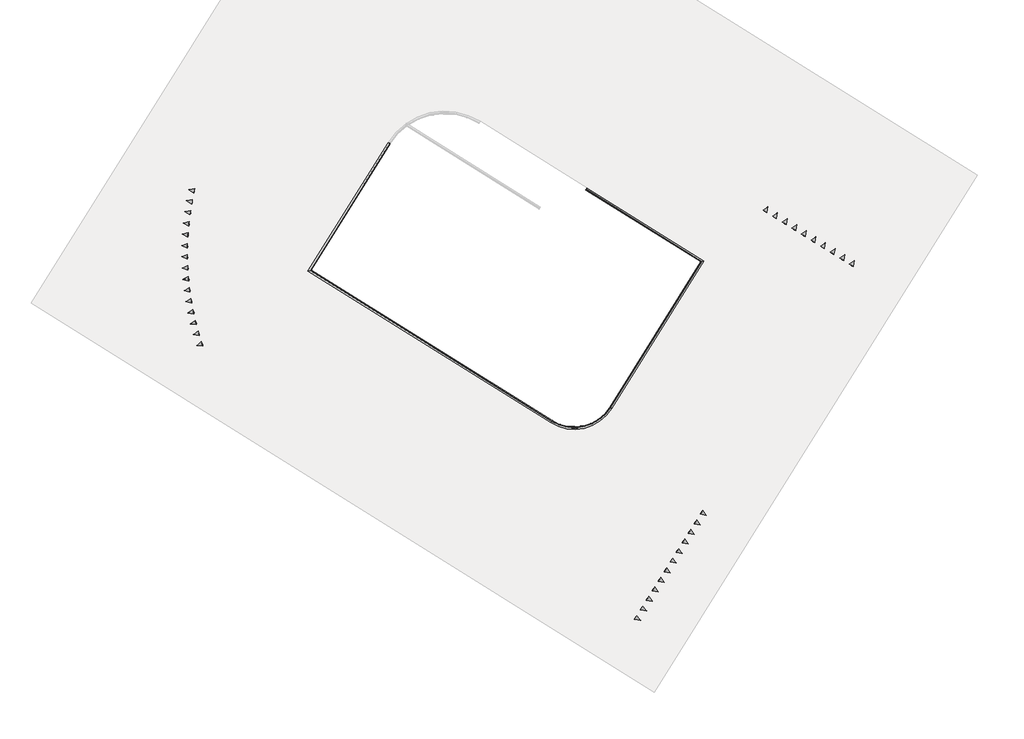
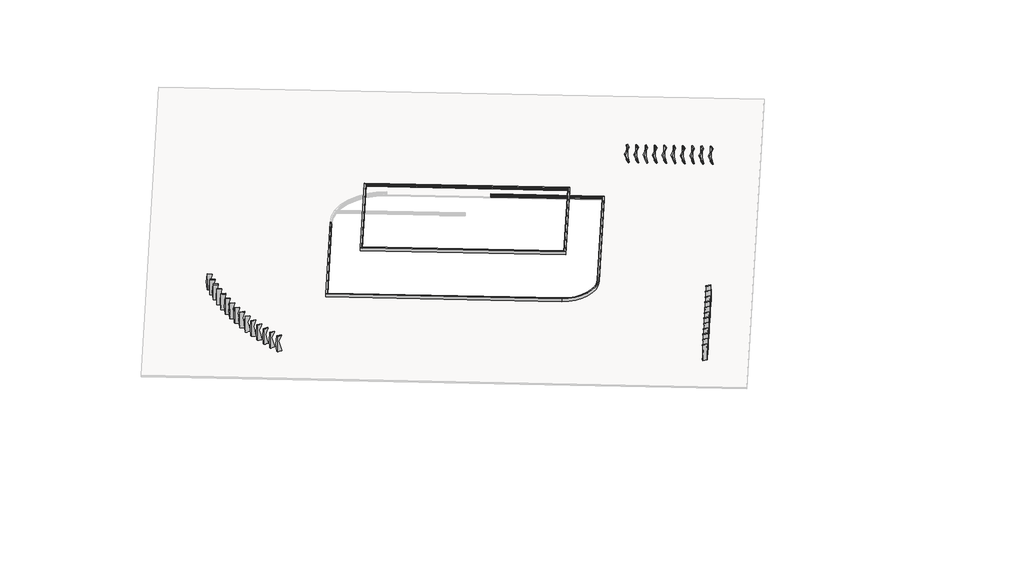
# One storey, part 1 of 2: 37 plates, 1 proxy.
"""IFC4 building model written with IfcOpenShell, lengths in millimetres."""

from ifc_helpers import new_model, si_unit, point, frame, origin, place, context, project, spatial, polyline, circle_curve, ellipse_curve, trimmed, transform, mapped, element, save
from ifc_brep_helpers import plane_surface, cylinder_surface, revolved_surface, advanced_brep
from components import plate_91021fb5, plate_51c6a2b6

model = new_model("IFC4")

# Units and contexts
model_context = context("Model", 3, world=origin())
ifc_project = project(units=[si_unit("LENGTHUNIT", "METRE", prefix="MILLI")], contexts=[model_context])

# Site, building, storey
site = spatial("IfcSite", under=ifc_project)
building = spatial("IfcBuilding", under=site)
storey = spatial("IfcBuildingStorey", under=building, Name="\u200fمحوطه", Elevation=-300.0)

# Proxy
placement = place(None, origin())
element("IfcBuildingElementProxy", 1, Name="Slab Edge", ObjectType="Slab Edge", at=placement, inside=storey, context=model_context, shape_type="AdvancedBrep", body=[
    advanced_brep(
    [(18993.1194704, -34692.0992688, 3470.5596583), (18711.0017166, -34757.2312843, 3301.3056348), (25100.771805, -24531.4615793, 3301.3056348), (25165.9038205, -24813.579333, 3470.5596583), (18965.546763, -34698.4649299, 3550.2749813), (25159.5381594, -24786.0066256, 3550.2749813), (18952.3488225, -34701.5119145, 3559.8528137), (25156.4911747, -24772.8086852, 3559.8528137), (18903.9171471, -34712.6932478, 3644.7056275), (25145.3098414, -24724.3770097, 3644.7056275), (18903.9171471, -34712.6932478, 3689.2842506), (25145.3098414, -24724.3770097, 3689.2842506), (18711.0017166, -34757.2312843, 3689.2842506), (25100.771805, -24531.4615793, 3689.2842506), (25100.771805, -24531.4615793, 3600.0), (18711.0017166, -34757.2312843, 3600.0), (37336.0570338, -46154.0387761, 3470.5596583), (37401.1890493, -46436.1565299, 3301.3056348), (37342.4226948, -46181.6114835, 3550.2749813), (37345.4696795, -46194.809424, 3559.8528137), (37356.6510128, -46243.2410994, 3644.7056275), (37356.6510128, -46243.2410994, 3689.2842506), (37401.1890493, -46436.1565299, 3689.2842506), (37401.1890493, -46436.1565299, 3600.0), (43508.8413838, -36275.5188404, 3470.5596583), (43790.9591376, -36210.3868249, 3301.3056348), (43536.4140912, -36269.1531793, 3550.2749813), (43549.6120317, -36266.1061946, 3559.8528137), (43598.0437072, -36254.9248613, 3644.7056275), (43598.0437072, -36254.9248613, 3689.2842506), (43790.9591376, -36210.3868249, 3689.2842506), (43790.9591376, -36210.3868249, 3600.0)],
    [
        (0, 1, ellipse_curve(frame((18676.5525326, -34765.1845051, 3540.0), z_axis=(-0.22495105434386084, 0.9743700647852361, 0.0), x_axis=(-0.9743700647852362, -0.2249510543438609, 0.0)), 339.411255, 240.0)),
        (1, 2),
        (2, 3, ellipse_curve(frame((25092.8185842, -24497.0123952, 3540.0), z_axis=(-0.9743700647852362, -0.2249510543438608, 0.0), x_axis=(0.22495105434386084, -0.9743700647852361, 0.0)), 339.411255, 240.0)),
        (3, 0),
        (4, 0, ellipse_curve(frame((18887.5971578, -34716.4610142, 3493.7064388), z_axis=(-0.22495105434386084, 0.9743700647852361, 0.0), x_axis=(-0.9743700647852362, -0.2249510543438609, 0.0)), 113.137085, 80.0)),
        (3, 5, ellipse_curve(frame((25141.542075, -24708.0570204, 3493.7064388), z_axis=(-0.9743700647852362, -0.2249510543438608, 0.0), x_axis=(0.22495105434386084, -0.9743700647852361, 0.0)), 113.137085, 80.0)),
        (5, 4),
        (6, 4),
        (5, 7),
        (7, 6),
        (8, 6, ellipse_curve(frame((19069.2732303, -34674.517788, 3644.7056275), z_axis=(0.22495105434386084, -0.9743700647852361, 0.0), x_axis=(0.9743700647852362, 0.2249510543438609, 0.0)), 169.7056275, 120.0)),
        (7, 9, ellipse_curve(frame((25183.4853013, -24889.733093, 3644.7056275), z_axis=(0.9743700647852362, 0.2249510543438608, 0.0), x_axis=(-0.22495105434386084, 0.9743700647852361, 0.0)), 169.7056275, 120.0)),
        (9, 8),
        (10, 8),
        (9, 11),
        (11, 10),
        (12, 10),
        (11, 13),
        (13, 12),
        (13, 14),
        (14, 2),
        (1, 15),
        (15, 12),
        (0, 16),
        (16, 17, ellipse_curve(frame((37409.1422701, -46470.6057139, 3540.0), z_axis=(-0.9743700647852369, -0.22495105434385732, 0.0), x_axis=(0.22495105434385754, -0.9743700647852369, 0.0)), 339.411255, 240.0)),
        (17, 1),
        (4, 18),
        (18, 16, ellipse_curve(frame((37360.4187792, -46259.5610887, 3493.7064388), z_axis=(-0.9743700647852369, -0.22495105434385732, 0.0), x_axis=(0.22495105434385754, -0.9743700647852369, 0.0)), 113.137085, 80.0)),
        (6, 19),
        (19, 18),
        (8, 20),
        (20, 19, ellipse_curve(frame((37318.475553, -46077.8850162, 3644.7056275), z_axis=(0.9743700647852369, 0.22495105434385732, 0.0), x_axis=(-0.22495105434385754, 0.9743700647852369, 0.0)), 169.7056275, 120.0)),
        (10, 21),
        (21, 20),
        (12, 22),
        (22, 21),
        (17, 23),
        (23, 22),
        (16, 24),
        (24, 25, ellipse_curve(frame((43825.4083216, -36202.4336041, 3540.0), z_axis=(0.22495105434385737, -0.974370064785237, 0.0), x_axis=(0.9743700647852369, 0.22495105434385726, 0.0)), 339.411255, 240.0)),
        (25, 17),
        (18, 26),
        (26, 24, ellipse_curve(frame((43614.3636964, -36251.1570949, 3493.7064388), z_axis=(0.22495105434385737, -0.974370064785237, 0.0), x_axis=(0.9743700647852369, 0.22495105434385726, 0.0)), 113.137085, 80.0)),
        (19, 27),
        (27, 26),
        (20, 28),
        (28, 27, ellipse_curve(frame((43432.6876239, -36293.1003212, 3644.7056275), z_axis=(-0.22495105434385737, 0.974370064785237, 0.0), x_axis=(-0.9743700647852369, -0.22495105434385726, 0.0)), 169.7056275, 120.0)),
        (21, 29),
        (29, 28),
        (22, 30),
        (30, 29),
        (25, 31),
        (31, 30),
        (24, 3),
        (2, 25),
        (26, 5),
        (27, 7),
        (28, 9),
        (29, 11),
        (30, 13),
    ],
    [
        cylinder_surface(frame((18689.8005142, -34743.9833027, 3540.0), z_axis=(-0.5299192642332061, -0.8480480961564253, 0.0), x_axis=(0.8480480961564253, -0.5299192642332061, 0.0)), 240.0),
        cylinder_surface(frame((18819.6845723, -34825.1438698, 3493.7064388), z_axis=(-0.5299192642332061, -0.8480480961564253, 0.0), x_axis=(0.8480480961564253, -0.5299192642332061, 0.0)), 80.0),
        plane_surface(frame((18965.546763, -34698.4649299, 3550.2749813), z_axis=(0.5996605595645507, -0.37470950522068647, 0.7071067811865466), x_axis=(0.529919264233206, 0.8480480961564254, 0.0))),
        revolved_surface(polyline([(25348.841384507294, -24851.557633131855, 3644.7056275), (19107.44869012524, -34839.873871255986, 3644.7056275)]), (18931.4942216, -34895.010293, 3644.7056275), (0.5299192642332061, 0.8480480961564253, 0.0)),
        plane_surface(frame((18903.9171471, -34712.6932478, 3644.7056275), z_axis=(0.8480480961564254, -0.5299192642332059, 0.0), x_axis=(0.5299192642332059, 0.8480480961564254, 0.0))),
        plane_surface(frame((18903.9171471, -34712.6932478, 3689.2842506), z_axis=(0.0, 0.0, 1.0), x_axis=(0.5299192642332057, 0.8480480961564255, 0.0))),
        plane_surface(frame((18711.0017166, -34757.2312843, 3689.2842506), z_axis=(-0.8480480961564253, 0.5299192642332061, 0.0), x_axis=(0.5299192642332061, 0.8480480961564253, 0.0))),
        cylinder_surface(frame((37387.9410677, -46457.3577323, 3540.0), z_axis=(0.8480480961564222, -0.5299192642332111, 0.0), x_axis=(0.5299192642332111, 0.8480480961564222, 0.0)), 240.0),
        cylinder_surface(frame((37469.1016348, -46327.4736742, 3493.7064388), z_axis=(0.8480480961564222, -0.5299192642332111, 0.0), x_axis=(0.5299192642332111, 0.8480480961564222, 0.0)), 80.0),
        plane_surface(frame((37342.4226948, -46181.6114835, 3550.2749813), z_axis=(0.37470950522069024, 0.5996605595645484, 0.7071067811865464), x_axis=(-0.8480480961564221, 0.5299192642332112, 0.0))),
        revolved_surface(polyline([(19031.097770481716, -34509.16170471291, 3644.7056275), (37483.831636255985, -46039.709556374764, 3644.7056275)]), (37538.968058, -46215.6640249, 3644.7056275), (-0.8480480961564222, 0.5299192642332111, 0.0)),
        plane_surface(frame((37356.6510128, -46243.2410994, 3644.7056275), z_axis=(0.5299192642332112, 0.8480480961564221, 0.0), x_axis=(-0.8480480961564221, 0.5299192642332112, 0.0))),
        plane_surface(frame((37356.6510128, -46243.2410994, 3689.2842506), z_axis=(0.0, 0.0, 1.0), x_axis=(-0.8480480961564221, 0.5299192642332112, 0.0))),
        plane_surface(frame((37401.1890493, -46436.1565299, 3689.2842506), z_axis=(-0.5299192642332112, -0.8480480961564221, 0.0), x_axis=(-0.8480480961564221, 0.5299192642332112, 0.0))),
        cylinder_surface(frame((43812.16034, -36223.6348065, 3540.0), z_axis=(0.5299192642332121, 0.8480480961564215, 0.0), x_axis=(-0.8480480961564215, 0.5299192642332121, 0.0)), 240.0),
        cylinder_surface(frame((43682.276282, -36142.4742393, 3493.7064388), z_axis=(0.5299192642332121, 0.8480480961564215, 0.0), x_axis=(-0.8480480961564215, 0.5299192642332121, 0.0)), 80.0),
        plane_surface(frame((43536.4140912, -36269.1531793, 3550.2749813), z_axis=(-0.5996605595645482, 0.3747095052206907, 0.7071067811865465), x_axis=(-0.5299192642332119, -0.8480480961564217, 0.0))),
        revolved_surface(polyline([(37153.11946972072, -46116.060476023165, 3644.7056275), (43394.51216411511, -36127.744237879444, 3644.7056275)]), (43570.4666326, -36072.6078162, 3644.7056275), (-0.5299192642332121, -0.8480480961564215, 0.0)),
        plane_surface(frame((43598.0437072, -36254.9248613, 3644.7056275), z_axis=(-0.8480480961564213, 0.5299192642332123, 0.0), x_axis=(-0.5299192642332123, -0.8480480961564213, 0.0))),
        plane_surface(frame((43598.0437072, -36254.9248613, 3689.2842506), z_axis=(0.0, 0.0, 1.0), x_axis=(-0.5299192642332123, -0.8480480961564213, 0.0))),
        plane_surface(frame((43790.9591376, -36210.3868249, 3689.2842506), z_axis=(0.8480480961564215, -0.5299192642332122, 0.0), x_axis=(-0.5299192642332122, -0.8480480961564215, 0.0))),
        cylinder_surface(frame((25114.0197866, -24510.2603768, 3540.0), z_axis=(-0.8480480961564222, 0.5299192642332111, 0.0), x_axis=(-0.5299192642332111, -0.8480480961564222, 0.0)), 240.0),
        cylinder_surface(frame((25032.8592194, -24640.1444349, 3493.7064388), z_axis=(-0.8480480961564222, 0.5299192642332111, 0.0), x_axis=(-0.5299192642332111, -0.8480480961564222, 0.0)), 80.0),
        plane_surface(frame((25159.5381594, -24786.0066256, 3550.2749813), z_axis=(-0.3747095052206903, -0.5996605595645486, 0.7071067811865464), x_axis=(0.8480480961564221, -0.5299192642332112, 0.0))),
        revolved_surface(polyline([(43470.86308374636, -36458.45640444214, 3644.7056275), (25018.12921797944, -24927.908552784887, 3644.7056275)]), (24962.9927963, -24751.9540843, 3644.7056275), (0.8480480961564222, -0.5299192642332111, 0.0)),
        plane_surface(frame((25145.3098414, -24724.3770097, 3644.7056275), z_axis=(-0.5299192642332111, -0.8480480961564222, 0.0), x_axis=(0.8480480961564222, -0.5299192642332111, 0.0))),
        plane_surface(frame((25145.3098414, -24724.3770097, 3689.2842506), z_axis=(0.0, 0.0, 1.0), x_axis=(0.8480480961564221, -0.5299192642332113, 0.0))),
        plane_surface(frame((25100.771805, -24531.4615793, 3689.2842506), z_axis=(0.529919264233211, 0.8480480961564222, 0.0), x_axis=(0.8480480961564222, -0.529919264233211, 0.0))),
    ],
    [
        (0, [[1, 2, 3, 4]]),
        (1, [[5, -4, 6, 7]]),
        (2, [[8, -7, 9, 10]]),
        (3, [[11, -10, 12, 13]]),
        (4, [[14, -13, 15, 16]]),
        (5, [[17, -16, 18, 19]]),
        (6, [[-19, 20, 21, -2, 22, 23]]),
        (7, [[-1, 24, 25, 26]]),
        (8, [[-5, 27, 28, -24]]),
        (9, [[-8, 29, 30, -27]]),
        (10, [[-11, 31, 32, -29]]),
        (11, [[-14, 33, 34, -31]]),
        (12, [[-17, 35, 36, -33]]),
        (13, [[-35, -23, -22, -26, 37, 38]]),
        (14, [[-25, 39, 40, 41]]),
        (15, [[-28, 42, 43, -39]]),
        (16, [[-30, 44, 45, -42]]),
        (17, [[-32, 46, 47, -44]]),
        (18, [[-34, 48, 49, -46]]),
        (19, [[-36, 50, 51, -48]]),
        (20, [[-50, -38, -37, -41, 52, 53]]),
        (21, [[-40, 54, -3, 55]]),
        (22, [[-43, 56, -6, -54]]),
        (23, [[-45, 57, -9, -56]]),
        (24, [[-47, 58, -12, -57]]),
        (25, [[-49, 59, -15, -58]]),
        (26, [[-51, 60, -18, -59]]),
        (27, [[-60, -53, -52, -55, -21, -20]]),
    ],
),
    advanced_brep(
    [(21011.9409122, -24667.8219143, -129.4403417), (20838.3160275, -24559.3290451, -298.6943652), (20838.3160275, -24559.3290451, 89.2842506), (20957.042761, -24633.5177421, 89.2842506), (20957.042761, -24633.5177421, 44.7056275), (20986.8492654, -24652.1429132, -40.1471863), (20994.9717279, -24657.2183911, -49.7250187), (14012.0967709, -35869.9141914, -129.4403417), (13729.9790171, -35935.046207, -298.6943652), (13984.5240635, -35876.2798525, -49.7250187), (13971.326123, -35879.3268372, -40.1471863), (13922.8944476, -35890.5081705, 44.7056275), (13922.8944476, -35890.5081705, 89.2842506), (13729.9790171, -35935.046207, 89.2842506), (35333.8133226, -49193.2013947, -129.4403417), (35225.3204534, -49366.8262793, -298.6943652), (35323.2097994, -49210.1705789, -49.7250187), (35318.1343215, -49218.2930415, -40.1471863), (35299.5091504, -49248.0995459, 44.7056275), (35299.5091504, -49248.0995459, 89.2842506), (35225.3204534, -49366.8262793, 89.2842506), (40425.7682743, -48017.6309657, -129.4403417), (40599.3931589, -48126.1238348, -298.6943652), (40442.7374585, -48028.2344888, -49.7250187), (40450.8599211, -48033.3099667, -40.1471863), (40480.6664255, -48051.9351378, 44.7056275), (40480.6664255, -48051.9351378, 89.2842506), (40599.3931589, -48126.1238348, 89.2842506), (48485.450944, -35119.4424962, -129.4403417), (48767.5686978, -35054.3104807, -298.6943652), (48513.0236514, -35113.0768351, -49.7250187), (48526.2215919, -35110.0298504, -40.1471863), (48574.6532674, -35098.8485171, 44.7056275), (48574.6532674, -35098.8485171, 89.2842506), (48767.5686978, -35054.3104807, 89.2842506), (38421.3819247, -28589.295457, -298.6943652), (38312.8890556, -28762.9203417, -129.4403417), (38323.4925787, -28745.9511574, -49.7250187), (38328.5680566, -28737.8286949, -40.1471863), (38347.1932277, -28708.0221905, 44.7056275), (38347.1932277, -28708.0221905, 89.2842506), (38421.3819247, -28589.295457, 89.2842506)],
    [
        (0, 1, circle_curve(frame((20817.1148251, -24546.0810635, -60.0), z_axis=(0.5299192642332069, 0.8480480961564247, 0.0), x_axis=(0.8480480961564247, -0.5299192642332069, 0.0)), 240.0)),
        (1, 2),
        (2, 3),
        (3, 4),
        (4, 5, circle_curve(frame((21058.8085325, -24697.1080538, 44.7056275), z_axis=(-0.5299192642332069, -0.8480480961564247, 0.0), x_axis=(0.8480480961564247, -0.5299192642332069, 0.0)), 120.0)),
        (5, 6),
        (6, 0, circle_curve(frame((20946.9988832, -24627.2416307, -106.2935612), z_axis=(0.5299192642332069, 0.8480480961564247, 0.0), x_axis=(0.8480480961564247, -0.5299192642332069, 0.0)), 80.0)),
        (7, 8, ellipse_curve(frame((13695.5298331, -35942.9994278, -60.0), z_axis=(-0.2249510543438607, 0.9743700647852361, 0.0), x_axis=(-0.9743700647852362, -0.2249510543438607, 0.0)), 339.411255, 240.0)),
        (8, 1),
        (0, 7),
        (9, 7, ellipse_curve(frame((13906.5744583, -35894.2759369, -106.2935612), z_axis=(-0.2249510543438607, 0.9743700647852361, 0.0), x_axis=(-0.9743700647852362, -0.2249510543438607, 0.0)), 113.137085, 80.0)),
        (6, 9),
        (10, 9),
        (5, 10),
        (11, 10, ellipse_curve(frame((14088.2505308, -35852.3327107, 44.7056275), z_axis=(0.2249510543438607, -0.9743700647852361, 0.0), x_axis=(0.9743700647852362, 0.2249510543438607, 0.0)), 169.7056275, 120.0)),
        (4, 11),
        (12, 11),
        (3, 12),
        (13, 12),
        (2, 13),
        (8, 13),
        (7, 14),
        (14, 15, circle_curve(frame((35212.0724718, -49388.0274817, -60.0), z_axis=(-0.8480480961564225, 0.5299192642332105, 0.0), x_axis=(0.5299192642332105, 0.8480480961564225, 0.0)), 240.0)),
        (15, 8),
        (9, 16),
        (16, 14, circle_curve(frame((35293.233039, -49258.1434237, -106.2935612), z_axis=(-0.8480480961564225, 0.5299192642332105, 0.0), x_axis=(0.5299192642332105, 0.8480480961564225, 0.0)), 80.0)),
        (10, 17),
        (17, 16),
        (11, 18),
        (18, 17, circle_curve(frame((35363.0994621, -49146.3337743, 44.7056275), z_axis=(0.8480480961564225, -0.5299192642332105, 0.0), x_axis=(0.5299192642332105, 0.8480480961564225, 0.0)), 120.0)),
        (12, 19),
        (19, 18),
        (13, 20),
        (20, 19),
        (15, 20),
        (14, 21, circle_curve(frame((37292.0055839, -46059.4387043, -129.4403417), z_axis=(0.0, 0.0, 1.0), x_axis=(0.8480480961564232, -0.5299192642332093, 0.0)), 3695.2652857)),
        (21, 22, circle_curve(frame((40620.5943613, -48139.3718164, -60.0), z_axis=(-0.5299192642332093, -0.8480480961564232, 0.0), x_axis=(-0.8480480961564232, 0.5299192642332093, 0.0)), 240.0)),
        (22, 15, circle_curve(frame((37292.0055839, -46059.4387043, -298.6943652), z_axis=(0.0, 0.0, -1.0), x_axis=(0.8480480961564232, -0.5299192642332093, 0.0)), 3900.0)),
        (16, 23, circle_curve(frame((37292.0055839, -46059.4387043, -49.7250187), z_axis=(0.0, 0.0, 1.0), x_axis=(0.8480480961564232, -0.5299192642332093, 0.0)), 3715.2749813)),
        (23, 21, circle_curve(frame((40490.7103033, -48058.2112493, -106.2935612), z_axis=(-0.5299192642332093, -0.8480480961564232, 0.0), x_axis=(-0.8480480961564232, 0.5299192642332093, 0.0)), 80.0)),
        (17, 24, circle_curve(frame((37292.0055839, -46059.4387043, -40.1471863), z_axis=(0.0, 0.0, 1.0), x_axis=(0.8480480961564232, -0.5299192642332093, 0.0)), 3724.8528137)),
        (24, 23),
        (18, 25, circle_curve(frame((37292.0055839, -46059.4387043, 44.7056275), z_axis=(0.0, 0.0, 1.0), x_axis=(0.8480480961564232, -0.5299192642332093, 0.0)), 3760.0)),
        (25, 24, circle_curve(frame((40378.9006539, -47988.3448261, 44.7056275), z_axis=(0.5299192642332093, 0.8480480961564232, 0.0), x_axis=(-0.8480480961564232, 0.5299192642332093, 0.0)), 120.0)),
        (19, 26, circle_curve(frame((37292.0055839, -46059.4387043, 89.2842506), z_axis=(0.0, 0.0, 1.0), x_axis=(0.8480480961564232, -0.5299192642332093, 0.0)), 3760.0)),
        (26, 25),
        (20, 27, circle_curve(frame((37292.0055839, -46059.4387043, 89.2842506), z_axis=(0.0, 0.0, 1.0), x_axis=(0.8480480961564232, -0.5299192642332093, 0.0)), 3900.0)),
        (27, 26),
        (22, 27),
        (21, 28),
        (28, 29, ellipse_curve(frame((48802.0178818, -35046.3572599, -60.0), z_axis=(0.22495105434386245, -0.9743700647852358, 0.0), x_axis=(0.9743700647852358, 0.22495105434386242, 0.0)), 339.411255, 240.0)),
        (29, 22),
        (23, 30),
        (30, 28, ellipse_curve(frame((48590.9732566, -35095.0807507, -106.2935612), z_axis=(0.22495105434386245, -0.9743700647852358, 0.0), x_axis=(0.9743700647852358, 0.22495105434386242, 0.0)), 113.137085, 80.0)),
        (24, 31),
        (31, 30),
        (25, 32),
        (32, 31, ellipse_curve(frame((48409.2971841, -35137.023977, 44.7056275), z_axis=(-0.22495105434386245, 0.9743700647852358, 0.0), x_axis=(-0.9743700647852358, -0.22495105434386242, 0.0)), 169.7056275, 120.0)),
        (26, 33),
        (33, 32),
        (27, 34),
        (34, 33),
        (29, 34),
        (35, 36, circle_curve(frame((38434.6299063, -28568.0942546, -60.0), z_axis=(-0.8480480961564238, 0.5299192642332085, 0.0), x_axis=(-0.5299192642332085, -0.8480480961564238, 0.0)), 240.0)),
        (36, 37, circle_curve(frame((38353.4693392, -28697.9783127, -106.2935612), z_axis=(-0.8480480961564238, 0.5299192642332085, 0.0), x_axis=(-0.5299192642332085, -0.8480480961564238, 0.0)), 80.0)),
        (37, 38),
        (38, 39, circle_curve(frame((38283.602916, -28809.787962, 44.7056275), z_axis=(0.8480480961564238, -0.5299192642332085, 0.0), x_axis=(-0.5299192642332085, -0.8480480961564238, 0.0)), 120.0)),
        (39, 40),
        (40, 41),
        (41, 35),
        (28, 36),
        (35, 29),
        (30, 37),
        (31, 38),
        (32, 39),
        (33, 40),
        (34, 41),
    ],
    [
        plane_surface(frame((20838.3160275, -24559.3290451, -300.0), z_axis=(0.5299192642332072, 0.8480480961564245, 0.0), x_axis=(-0.8480480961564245, 0.5299192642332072, 0.0))),
        cylinder_surface(frame((13708.7778147, -35921.7982253, -60.0), z_axis=(-0.5299192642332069, -0.8480480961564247, 0.0), x_axis=(0.8480480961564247, -0.5299192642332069, 0.0)), 240.0),
        cylinder_surface(frame((13838.6618727, -36002.9587925, -106.2935612), z_axis=(-0.5299192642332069, -0.8480480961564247, 0.0), x_axis=(0.8480480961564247, -0.5299192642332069, 0.0)), 80.0),
        plane_surface(frame((13984.5240635, -35876.2798525, -49.7250187), z_axis=(0.5996605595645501, -0.3747095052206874, 0.7071067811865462), x_axis=(0.5299192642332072, 0.8480480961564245, 0.0))),
        revolved_surface(polyline([(21160.57430408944, -24760.698365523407, 44.7056275), (14126.425990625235, -36017.68879395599, 44.7056275)]), (13950.4715221, -36072.8252157, 44.7056275), (0.5299192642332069, 0.8480480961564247, 0.0)),
        plane_surface(frame((13922.8944476, -35890.5081705, 44.7056275), z_axis=(0.8480480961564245, -0.5299192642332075, 0.0), x_axis=(0.5299192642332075, 0.8480480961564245, 0.0))),
        plane_surface(frame((13922.8944476, -35890.5081705, 89.2842506), z_axis=(0.0, 0.0, 1.0000000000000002), x_axis=(0.5299192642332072, 0.8480480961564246, 0.0))),
        plane_surface(frame((13729.9790171, -35935.046207, 89.2842506), z_axis=(-0.8480480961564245, 0.5299192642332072, 0.0), x_axis=(0.5299192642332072, 0.8480480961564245, 0.0))),
        cylinder_surface(frame((35212.0724718, -49388.0274817, -60.0), z_axis=(0.8480480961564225, -0.5299192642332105, 0.0), x_axis=(0.5299192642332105, 0.8480480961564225, 0.0)), 240.0),
        cylinder_surface(frame((35293.233039, -49258.1434237, -106.2935612), z_axis=(0.8480480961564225, -0.5299192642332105, 0.0), x_axis=(0.5299192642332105, 0.8480480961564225, 0.0)), 80.0),
        plane_surface(frame((35323.2097994, -49210.1705789, -49.7250187), z_axis=(0.3747095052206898, 0.5996605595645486, 0.7071067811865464), x_axis=(-0.8480480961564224, 0.5299192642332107, 0.0))),
        revolved_surface(polyline([(14050.075070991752, -35686.976627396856, 44.7056275), (35426.689773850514, -49044.56800278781, 44.7056275)]), (35363.0994621, -49146.3337743, 44.7056275), (-0.8480480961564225, 0.5299192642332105, 0.0)),
        plane_surface(frame((35299.5091504, -49248.0995459, 44.7056275), z_axis=(0.5299192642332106, 0.8480480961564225, 0.0), x_axis=(-0.8480480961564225, 0.5299192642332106, 0.0))),
        plane_surface(frame((35299.5091504, -49248.0995459, 89.2842506), z_axis=(0.0, 0.0, 1.0), x_axis=(-0.8480480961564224, 0.5299192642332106, 0.0))),
        plane_surface(frame((35225.3204534, -49366.8262793, 89.2842506), z_axis=(-0.5299192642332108, -0.8480480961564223, 0.0), x_axis=(-0.8480480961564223, 0.5299192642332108, 0.0))),
        revolved_surface(trimmed(ellipse_curve(frame((40620.5943613, -48139.3718164, -60.0), z_axis=(0.5299192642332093, 0.8480480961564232, 0.0), x_axis=(-0.8480480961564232, 0.5299192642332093, 0.0)), 240.0, 240.0), [point((40599.3931589, -48126.1238348, -298.6943652))], [point((40425.7682743, -48017.6309657, -129.4403417))], True, "CARTESIAN"), (37292.0055839, -46059.4387043, -300.0), (0.0, 0.0, -1.0)),
        revolved_surface(trimmed(ellipse_curve(frame((40490.7103033, -48058.2112493, -106.2935612), z_axis=(0.5299192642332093, 0.8480480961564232, 0.0), x_axis=(-0.8480480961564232, 0.5299192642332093, 0.0)), 80.0, 80.0), [point((40425.7682743, -48017.6309657, -129.4403417))], [point((40442.7374585, -48028.2344888, -49.7250187))], True, "CARTESIAN"), (37292.0055839, -46059.4387043, -300.0), (0.0, 0.0, -1.0)),
        revolved_surface(polyline([(40442.7374585, -48028.2344888, -49.7250187), (40450.8599211, -48033.3099667, -40.1471863)]), (37292.0055839, -46059.4387043, -300.0), (0.0, 0.0, -1.0)),
        revolved_surface(trimmed(ellipse_curve(frame((40378.9006539, -47988.3448261, 44.7056275), z_axis=(-0.5299192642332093, -0.8480480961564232, 0.0), x_axis=(-0.8480480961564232, 0.5299192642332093, 0.0)), 120.0, 120.0), [point((40450.8599211, -48033.3099667, -40.1471863))], [point((40480.6664255, -48051.9351378, 44.7056275))], True, "CARTESIAN"), (37292.0055839, -46059.4387043, -300.0), (0.0, 0.0, -1.0)),
        revolved_surface(polyline([(40480.66642544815, -48051.93513781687, 44.70562749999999), (40480.66642544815, -48051.93513781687, 89.28425060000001)]), (37292.0055839, -46059.4387043, -300.0), (0.0, 0.0, -1.0)),
        plane_surface(frame((37292.0055839, -46059.4387043, 89.2842506), z_axis=(0.0, 0.0, 1.0000000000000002), x_axis=(0.8480480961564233, -0.5299192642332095, 0.0))),
        cylinder_surface(frame((37292.0055839, -46059.4387043, -300.0), z_axis=(0.0, 0.0, -1.0), x_axis=(0.8480480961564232, -0.5299192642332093, 0.0)), 3900.0),
        cylinder_surface(frame((48788.7699002, -35067.5584623, -60.0), z_axis=(0.529919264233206, 0.8480480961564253, 0.0), x_axis=(-0.8480480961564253, 0.529919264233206, 0.0)), 240.0),
        cylinder_surface(frame((48658.8858422, -34986.3978951, -106.2935612), z_axis=(0.529919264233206, 0.8480480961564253, 0.0), x_axis=(-0.8480480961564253, 0.529919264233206, 0.0)), 80.0),
        plane_surface(frame((48513.0236514, -35113.0768351, -49.7250187), z_axis=(-0.5996605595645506, 0.3747095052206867, 0.7071067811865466), x_axis=(-0.5299192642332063, -0.8480480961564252, 0.0))),
        revolved_surface(polyline([(40277.13488239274, -47924.7545144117, 44.7056275), (48371.12172431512, -34971.66789367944, 44.7056275)]), (48547.0761928, -34916.531472, 44.7056275), (-0.529919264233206, -0.8480480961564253, 0.0)),
        plane_surface(frame((48574.6532674, -35098.8485171, 44.7056275), z_axis=(-0.8480480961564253, 0.529919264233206, 0.0), x_axis=(-0.529919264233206, -0.8480480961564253, 0.0))),
        plane_surface(frame((48574.6532674, -35098.8485171, 89.2842506), z_axis=(0.0, 0.0, 1.0), x_axis=(-0.529919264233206, -0.8480480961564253, 0.0))),
        plane_surface(frame((48767.5686978, -35054.3104807, 89.2842506), z_axis=(0.8480480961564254, -0.529919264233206, 0.0), x_axis=(-0.529919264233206, -0.8480480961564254, 0.0))),
        plane_surface(frame((38421.3819247, -28589.295457, -713.6933982), z_axis=(-0.8480480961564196, 0.5299192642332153, 0.0), x_axis=(0.5299192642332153, 0.8480480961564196, 0.0))),
        cylinder_surface(frame((38434.6299063, -28568.0942546, -60.0), z_axis=(-0.8480480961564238, 0.5299192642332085, 0.0), x_axis=(-0.5299192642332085, -0.8480480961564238, 0.0)), 240.0),
        cylinder_surface(frame((38353.4693392, -28697.9783127, -106.2935612), z_axis=(-0.8480480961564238, 0.5299192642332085, 0.0), x_axis=(-0.5299192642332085, -0.8480480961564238, 0.0)), 80.0),
        plane_surface(frame((38323.4925787, -28745.9511574, -49.7250187), z_axis=(-0.37470950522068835, -0.5996605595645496, 0.7071067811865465), x_axis=(0.8480480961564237, -0.5299192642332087, 0.0))),
        revolved_surface(polyline([(48447.47264396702, -35302.38006020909, 44.7056275), (38220.01260429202, -28911.55373353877, 44.7056275)]), (38283.602916, -28809.787962, 44.7056275), (0.8480480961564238, -0.5299192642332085, 0.0)),
        plane_surface(frame((38347.1932277, -28708.0221905, 44.7056275), z_axis=(-0.5299192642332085, -0.8480480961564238, 0.0), x_axis=(0.8480480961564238, -0.5299192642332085, 0.0))),
        plane_surface(frame((38347.1932277, -28708.0221905, 89.2842506), z_axis=(0.0, 0.0, 1.0), x_axis=(0.8480480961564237, -0.5299192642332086, 0.0))),
        plane_surface(frame((38421.3819247, -28589.295457, 89.2842506), z_axis=(0.5299192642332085, 0.8480480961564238, 0.0), x_axis=(0.8480480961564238, -0.5299192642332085, 0.0))),
    ],
    [
        (0, [[1, 2, 3, 4, 5, 6, 7]]),
        (1, [[8, 9, -1, 10]]),
        (2, [[11, -10, -7, 12]]),
        (3, [[13, -12, -6, 14]]),
        (4, [[15, -14, -5, 16]]),
        (5, [[17, -16, -4, 18]]),
        (6, [[19, -18, -3, 20]]),
        (7, [[21, -20, -2, -9]]),
        (8, [[-8, 22, 23, 24]]),
        (9, [[-11, 25, 26, -22]]),
        (10, [[-13, 27, 28, -25]]),
        (11, [[-15, 29, 30, -27]]),
        (12, [[-17, 31, 32, -29]]),
        (13, [[-19, 33, 34, -31]]),
        (14, [[-21, -24, 35, -33]]),
        (15, [[-23, 36, 37, 38]]),
        (16, [[-26, 39, 40, -36]]),
        (17, [[-28, 41, 42, -39]]),
        (18, [[-30, 43, 44, -41]]),
        (19, [[-32, 45, 46, -43]]),
        (20, [[-34, 47, 48, -45]]),
        (21, [[-35, -38, 49, -47]]),
        (22, [[-37, 50, 51, 52]]),
        (23, [[-40, 53, 54, -50]]),
        (24, [[-42, 55, 56, -53]]),
        (25, [[-44, 57, 58, -55]]),
        (26, [[-46, 59, 60, -57]]),
        (27, [[-48, 61, 62, -59]]),
        (28, [[-49, -52, 63, -61]]),
        (29, [[64, 65, 66, 67, 68, 69, 70]]),
        (30, [[-51, 71, -64, 72]]),
        (31, [[-54, 73, -65, -71]]),
        (32, [[-56, 74, -66, -73]]),
        (33, [[-58, 75, -67, -74]]),
        (34, [[-60, 76, -68, -75]]),
        (35, [[-62, 77, -69, -76]]),
        (36, [[-63, -72, -70, -77]]),
    ],
),
])

# Plates
plate_shape = plate_91021fb5(model_context)
element("IfcPlate", 2, ObjectType="مدل پارامتریک کصینوس دار : مدل پارامتریک کصینوس دار", at=placement, inside=storey, context=model_context, shape_type="MappedRepresentation", body=[
    mapped(plate_shape, transform((42104.1680473, -68582.3068109, -3050.0), x_axis=(0.0, 0.0, 1.0), y_axis=(0.5299192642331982, 0.8480480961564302, 0.0), z_axis=(-0.8480480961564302, 0.5299192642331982, 0.0))),
])
element("IfcPlate", 3, ObjectType="مدل پارامتریک کصینوس دار : مدل پارامتریک کصینوس دار", at=placement, inside=storey, context=model_context, shape_type="MappedRepresentation", body=[
    mapped(plate_shape, transform((42634.0873115, -67734.2587147, -3050.0), x_axis=(0.0, 0.0, 1.0), y_axis=(0.5299192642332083, 0.8480480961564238, 0.0), z_axis=(-0.8480480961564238, 0.5299192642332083, 0.0))),
])
element("IfcPlate", 4, ObjectType="مدل پارامتریک کصینوس دار : مدل پارامتریک کصینوس دار", at=placement, inside=storey, context=model_context, shape_type="MappedRepresentation", body=[
    mapped(plate_shape, transform((43164.0065758, -66886.2106186, -3050.0), x_axis=(0.0, 0.0, 1.0), y_axis=(0.5299192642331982, 0.8480480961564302, 0.0), z_axis=(-0.8480480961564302, 0.5299192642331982, 0.0))),
])
element("IfcPlate", 5, ObjectType="مدل پارامتریک کصینوس دار : مدل پارامتریک کصینوس دار", at=placement, inside=storey, context=model_context, shape_type="MappedRepresentation", body=[
    mapped(plate_shape, transform((43693.92584, -66038.1625224, -3050.0), x_axis=(0.0, 0.0, 1.0), y_axis=(0.5299192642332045, 0.8480480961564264, 0.0), z_axis=(-0.8480480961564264, 0.5299192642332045, 0.0))),
])
element("IfcPlate", 6, ObjectType="مدل پارامتریک کصینوس دار : مدل پارامتریک کصینوس دار", at=placement, inside=storey, context=model_context, shape_type="MappedRepresentation", body=[
    mapped(plate_shape, transform((44223.8451042, -65190.1144263, -3050.0), x_axis=(0.0, 0.0, 1.0), y_axis=(0.5299192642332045, 0.8480480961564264, 0.0), z_axis=(-0.8480480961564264, 0.5299192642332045, 0.0))),
])
element("IfcPlate", 7, ObjectType="مدل پارامتریک کصینوس دار : مدل پارامتریک کصینوس دار", at=placement, inside=storey, context=model_context, shape_type="MappedRepresentation", body=[
    mapped(plate_shape, transform((44753.7643685, -64342.0663301, -3050.0), x_axis=(0.0, 0.0, 1.0), y_axis=(0.5299192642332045, 0.8480480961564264, 0.0), z_axis=(-0.8480480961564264, 0.5299192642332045, 0.0))),
])
element("IfcPlate", 8, ObjectType="مدل پارامتریک کصینوس دار : مدل پارامتریک کصینوس دار", at=placement, inside=storey, context=model_context, shape_type="MappedRepresentation", body=[
    mapped(plate_shape, transform((45283.6836327, -63494.018234, -3050.0), x_axis=(0.0, 0.0, 1.0), y_axis=(0.5299192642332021, 0.8480480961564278, 0.0), z_axis=(-0.8480480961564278, 0.5299192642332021, 0.0))),
])
element("IfcPlate", 9, ObjectType="مدل پارامتریک کصینوس دار : مدل پارامتریک کصینوس دار", at=placement, inside=storey, context=model_context, shape_type="MappedRepresentation", body=[
    mapped(plate_shape, transform((45813.6028969, -62645.9701378, -3050.0), x_axis=(0.0, 0.0, 1.0), y_axis=(0.529919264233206, 0.8480480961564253, 0.0), z_axis=(-0.8480480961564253, 0.529919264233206, 0.0))),
])
element("IfcPlate", 10, ObjectType="مدل پارامتریک کصینوس دار : مدل پارامتریک کصینوس دار", at=placement, inside=storey, context=model_context, shape_type="MappedRepresentation", body=[
    mapped(plate_shape, transform((46343.5221612, -61797.9220416, -3050.0), x_axis=(0.0, 0.0, 1.0), y_axis=(0.5299192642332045, 0.8480480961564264, 0.0), z_axis=(-0.8480480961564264, 0.5299192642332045, 0.0))),
])
element("IfcPlate", 11, ObjectType="مدل پارامتریک کصینوس دار : مدل پارامتریک کصینوس دار", at=placement, inside=storey, context=model_context, shape_type="MappedRepresentation", body=[
    mapped(plate_shape, transform((46873.4414254, -60949.8739455, -3050.0), x_axis=(0.0, 0.0, 1.0), y_axis=(0.5299192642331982, 0.8480480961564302, 0.0), z_axis=(-0.8480480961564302, 0.5299192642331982, 0.0))),
])
element("IfcPlate", 12, ObjectType="مدل پارامتریک کصینوس دار : مدل پارامتریک کصینوس دار", at=placement, inside=storey, context=model_context, shape_type="MappedRepresentation", body=[
    mapped(plate_shape, transform((47403.3606896, -60101.8258493, -3050.0), x_axis=(0.0, 0.0, 1.0), y_axis=(0.5299192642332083, 0.8480480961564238, 0.0), z_axis=(-0.8480480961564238, 0.5299192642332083, 0.0))),
])
element("IfcPlate", 13, ObjectType="مدل پارامتریک کصینوس دار : مدل پارامتریک کصینوس دار", at=placement, inside=storey, context=model_context, shape_type="MappedRepresentation", body=[
    mapped(plate_shape, transform((47933.2799539, -59253.7777532, -3050.0), x_axis=(0.0, 0.0, 1.0), y_axis=(0.5299192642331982, 0.8480480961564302, 0.0), z_axis=(-0.8480480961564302, 0.5299192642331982, 0.0))),
])
element("IfcPlate", 14, ObjectType="مدل پارامتریک کصینوس دار : مدل پارامتریک کصینوس دار", at=placement, inside=storey, context=model_context, shape_type="MappedRepresentation", body=[
    mapped(plate_shape, transform((63766.632748, -36054.599249, -3050.0), x_axis=(0.0, 0.0, 1.0), y_axis=(-0.848048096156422, 0.5299192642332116, 0.0), z_axis=(-0.5299192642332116, -0.848048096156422, 0.0))),
])
element("IfcPlate", 15, ObjectType="مدل پارامتریک کصینوس دار : مدل پارامتریک کصینوس دار", at=placement, inside=storey, context=model_context, shape_type="MappedRepresentation", body=[
    mapped(plate_shape, transform((62918.5846518, -35524.6799848, -3050.0), x_axis=(0.0, 0.0, 1.0), y_axis=(-0.8480480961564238, 0.5299192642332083, 0.0), z_axis=(-0.5299192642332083, -0.8480480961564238, 0.0))),
])
element("IfcPlate", 16, ObjectType="مدل پارامتریک کصینوس دار : مدل پارامتریک کصینوس دار", at=placement, inside=storey, context=model_context, shape_type="MappedRepresentation", body=[
    mapped(plate_shape, transform((62070.5365556, -34994.7607206, -3050.0), x_axis=(0.0, 0.0, 1.0), y_axis=(-0.8480480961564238, 0.5299192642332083, 0.0), z_axis=(-0.5299192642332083, -0.8480480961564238, 0.0))),
])
element("IfcPlate", 17, ObjectType="مدل پارامتریک کصینوس دار : مدل پارامتریک کصینوس دار", at=placement, inside=storey, context=model_context, shape_type="MappedRepresentation", body=[
    mapped(plate_shape, transform((61222.4884595, -34464.8414563, -3050.0), x_axis=(0.0, 0.0, 1.0), y_axis=(-0.848048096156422, 0.5299192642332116, 0.0), z_axis=(-0.5299192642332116, -0.848048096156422, 0.0))),
])
element("IfcPlate", 18, ObjectType="مدل پارامتریک کصینوس دار : مدل پارامتریک کصینوس دار", at=placement, inside=storey, context=model_context, shape_type="MappedRepresentation", body=[
    mapped(plate_shape, transform((60374.4403633, -33934.9221921, -3050.0), x_axis=(0.0, 0.0, 1.0), y_axis=(-0.8480480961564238, 0.5299192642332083, 0.0), z_axis=(-0.5299192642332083, -0.8480480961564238, 0.0))),
])
element("IfcPlate", 19, ObjectType="مدل پارامتریک کصینوس دار : مدل پارامتریک کصینوس دار", at=placement, inside=storey, context=model_context, shape_type="MappedRepresentation", body=[
    mapped(plate_shape, transform((59526.3922672, -33405.0029279, -3050.0), x_axis=(0.0, 0.0, 1.0), y_axis=(-0.8480480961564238, 0.5299192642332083, 0.0), z_axis=(-0.5299192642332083, -0.8480480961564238, 0.0))),
])
element("IfcPlate", 20, ObjectType="مدل پارامتریک کصینوس دار : مدل پارامتریک کصینوس دار", at=placement, inside=storey, context=model_context, shape_type="MappedRepresentation", body=[
    mapped(plate_shape, transform((58678.344171, -32875.0836636, -3050.0), x_axis=(0.0, 0.0, 1.0), y_axis=(-0.8480480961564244, 0.5299192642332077, 0.0), z_axis=(-0.5299192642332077, -0.8480480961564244, 0.0))),
])
element("IfcPlate", 21, ObjectType="مدل پارامتریک کصینوس دار : مدل پارامتریک کصینوس دار", at=placement, inside=storey, context=model_context, shape_type="MappedRepresentation", body=[
    mapped(plate_shape, transform((57830.2960749, -32345.1643994, -3050.0), x_axis=(0.0, 0.0, 1.0), y_axis=(-0.848048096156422, 0.5299192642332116, 0.0), z_axis=(-0.5299192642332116, -0.848048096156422, 0.0))),
])
element("IfcPlate", 22, ObjectType="مدل پارامتریک کصینوس دار : مدل پارامتریک کصینوس دار", at=placement, inside=storey, context=model_context, shape_type="MappedRepresentation", body=[
    mapped(plate_shape, transform((56982.2479787, -31815.2451352, -3050.0), x_axis=(0.0, 0.0, 1.0), y_axis=(-0.8480480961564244, 0.5299192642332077, 0.0), z_axis=(-0.5299192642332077, -0.8480480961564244, 0.0))),
])
element("IfcPlate", 23, ObjectType="مدل پارامتریک کصینوس دار : مدل پارامتریک کصینوس دار", at=placement, inside=storey, context=model_context, shape_type="MappedRepresentation", body=[
    mapped(plate_shape, transform((56134.1998825, -31285.3258709, -3050.0), x_axis=(0.0, 0.0, 1.0), y_axis=(-0.8480480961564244, 0.5299192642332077, 0.0), z_axis=(-0.5299192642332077, -0.8480480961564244, 0.0))),
])
plate_2_shape = plate_51c6a2b6(model_context)
element("IfcPlate", 24, ObjectType="مدل پارامتریک کصینوس دار : مدل پارامتریک کصینوس دار", at=placement, inside=storey, context=model_context, shape_type="MappedRepresentation", body=[
    mapped(plate_2_shape, transform((4518.7959308, -44433.3710236, -3050.0), x_axis=(0.0, 0.0, 1.0), y_axis=(0.3154490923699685, -0.9489425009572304, 0.0), z_axis=(0.9489425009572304, 0.3154490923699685, 0.0))),
])
element("IfcPlate", 25, ObjectType="مدل پارامتریک کصینوس دار : مدل پارامتریک کصینوس دار", at=placement, inside=storey, context=model_context, shape_type="MappedRepresentation", body=[
    mapped(plate_2_shape, transform((4148.0350837, -43501.5881667, -3050.0), x_axis=(0.0, 0.0, 1.0), y_axis=(0.27858381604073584, -0.9604119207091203, 0.0), z_axis=(0.9604119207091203, 0.27858381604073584, 0.0))),
])
element("IfcPlate", 26, ObjectType="مدل پارامتریک کصینوس دار : مدل پارامتریک کصینوس دار", at=placement, inside=storey, context=model_context, shape_type="MappedRepresentation", body=[
    mapped(plate_2_shape, transform((3813.5183565, -42556.1880096, -3050.0), x_axis=(0.0, 0.0, 1.0), y_axis=(0.24130328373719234, -0.970449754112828, 0.0), z_axis=(0.970449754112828, 0.24130328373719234, 0.0))),
])
element("IfcPlate", 27, ObjectType="مدل پارامتریک کصینوس دار : مدل پارامتریک کصینوس دار", at=placement, inside=storey, context=model_context, shape_type="MappedRepresentation", body=[
    mapped(plate_2_shape, transform((3515.7443786, -41598.5797619, -3050.0), x_axis=(0.0, 0.0, 1.0), y_axis=(0.20366306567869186, -0.9790410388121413, 0.0), z_axis=(0.9790410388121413, 0.20366306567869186, 0.0))),
])
element("IfcPlate", 28, ObjectType="مدل پارامتریک کصینوس دار : مدل پارامتریک کصینوس دار", at=placement, inside=storey, context=model_context, shape_type="MappedRepresentation", body=[
    mapped(plate_2_shape, transform((3255.1570106, -40630.1908309, -3050.0), x_axis=(0.0, 0.0, 1.0), y_axis=(0.16571926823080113, -0.986172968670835, 0.0), z_axis=(0.986172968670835, 0.16571926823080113, 0.0))),
])
element("IfcPlate", 29, ObjectType="مدل پارامتریک کصینوس دار : مدل پارامتریک کصینوس دار", at=placement, inside=storey, context=model_context, shape_type="MappedRepresentation", body=[
    mapped(plate_2_shape, transform((3032.1446831, -39652.4646935, -3050.0), x_axis=(0.0, 0.0, 1.0), y_axis=(0.12752845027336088, -0.9918349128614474, 0.0), z_axis=(0.9918349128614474, 0.12752845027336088, 0.0))),
])
element("IfcPlate", 30, ObjectType="مدل پارامتریک کصینوس دار : مدل پارامتریک کصینوس دار", at=placement, inside=storey, context=model_context, shape_type="MappedRepresentation", body=[
    mapped(plate_2_shape, transform((2847.0398175, -38666.8587445, -3050.0), x_axis=(0.0, 0.0, 1.0), y_axis=(0.08914753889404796, -0.9960184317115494, 0.0), z_axis=(0.9960184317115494, 0.08914753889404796, 0.0))),
])
element("IfcPlate", 31, ObjectType="مدل پارامتریک کصینوس دار : مدل پارامتریک کصینوس دار", at=placement, inside=storey, context=model_context, shape_type="MappedRepresentation", body=[
    mapped(plate_2_shape, transform((2700.1183303, -37674.8421244, -3050.0), x_axis=(0.0, 0.0, 1.0), y_axis=(0.05063374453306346, -0.9987172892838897, 0.0), z_axis=(0.9987172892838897, 0.05063374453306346, 0.0))),
])
element("IfcPlate", 32, ObjectType="مدل پارامتریک کصینوس دار : مدل پارامتریک کصینوس دار", at=placement, inside=storey, context=model_context, shape_type="MappedRepresentation", body=[
    mapped(plate_2_shape, transform((2591.5992222, -36677.8935294, -3050.0), x_axis=(0.0, 0.0, 1.0), y_axis=(0.012044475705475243, -0.9999274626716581, 0.0), z_axis=(0.9999274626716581, 0.012044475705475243, 0.0))),
])
element("IfcPlate", 33, ObjectType="مدل پارامتریک کصینوس دار : مدل پارامتریک کصینوس دار", at=placement, inside=storey, context=model_context, shape_type="MappedRepresentation", body=[
    mapped(plate_2_shape, transform((2521.6442514, -35677.4990072, -3050.0), x_axis=(0.0, 0.0, 1.0), y_axis=(-0.02656274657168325, -0.9996471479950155, 0.0), z_axis=(0.9996471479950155, -0.02656274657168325, 0.0))),
])
element("IfcPlate", 34, ObjectType="مدل پارامتریک کصینوس دار : مدل پارامتریک کصینوس دار", at=placement, inside=storey, context=model_context, shape_type="MappedRepresentation", body=[
    mapped(plate_2_shape, transform((2490.3576924, -34675.1497421, -3050.0), x_axis=(0.0, 0.0, 1.0), y_axis=(-0.06513037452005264, -0.9978767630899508, 0.0), z_axis=(0.9978767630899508, -0.06513037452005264, 0.0))),
])
element("IfcPlate", 35, ObjectType="مدل پارامتریک کصینوس دار : مدل پارامتریک کصینوس دار", at=placement, inside=storey, context=model_context, shape_type="MappedRepresentation", body=[
    mapped(plate_2_shape, transform((2497.7861808, -33672.3398322, -3050.0), x_axis=(0.0, 0.0, 1.0), y_axis=(-0.10360091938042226, -0.9946189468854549, 0.0), z_axis=(0.9946189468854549, -0.10360091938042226, 0.0))),
])
element("IfcPlate", 36, ObjectType="مدل پارامتریک کصینوس دار : مدل پارامتریک کصینوس دار", at=placement, inside=storey, context=model_context, shape_type="MappedRepresentation", body=[
    mapped(plate_2_shape, transform((2543.9186439, -32670.5640619, -3050.0), x_axis=(0.0, 0.0, 1.0), y_axis=(-0.14191703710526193, -0.9898785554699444, 0.0), z_axis=(0.9898785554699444, -0.14191703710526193, 0.0))),
])
element("IfcPlate", 37, ObjectType="مدل پارامتریک کصینوس دار : مدل پارامتریک کصینوس دار", at=placement, inside=storey, context=model_context, shape_type="MappedRepresentation", body=[
    mapped(plate_2_shape, transform((2628.6863166, -31671.3156746, -3050.0), x_axis=(0.0, 0.0, 1.0), y_axis=(-0.1800216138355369, -0.983662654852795, 0.0), z_axis=(0.983662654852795, -0.1800216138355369, 0.0))),
])
element("IfcPlate", 38, ObjectType="مدل پارامتریک کصینوس دار : مدل پارامتریک کصینوس دار", at=placement, inside=storey, context=model_context, shape_type="MappedRepresentation", body=[
    mapped(plate_2_shape, transform((2751.9628447, -30676.0841459, -3050.0), x_axis=(0.0, 0.0, 1.0), y_axis=(-0.21785785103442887, -0.9759805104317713, 0.0), z_axis=(0.9759805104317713, -0.21785785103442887, 0.0))),
])

save(model, "model.ifc")
